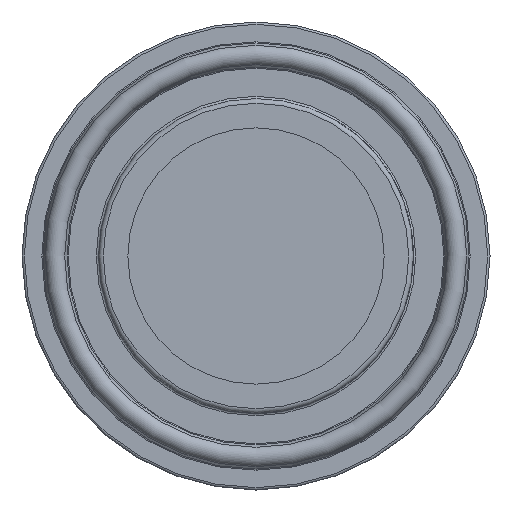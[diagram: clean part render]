
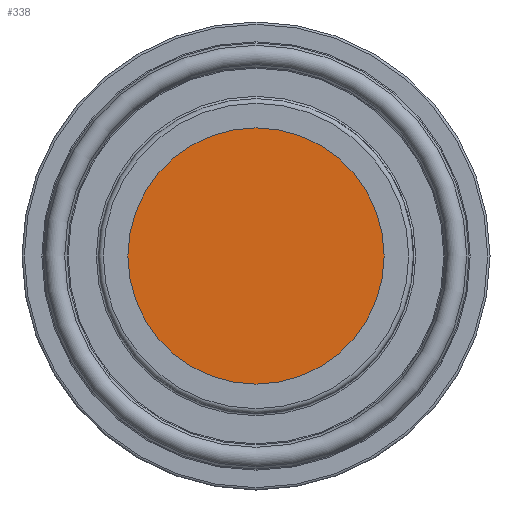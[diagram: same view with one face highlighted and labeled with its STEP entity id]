
A CAD part, left-side view. The second image highlights one B-rep face of the part: STEP entity #338.
In plain terms, the highlighted planar face has unit normal (-1, 0, 0).
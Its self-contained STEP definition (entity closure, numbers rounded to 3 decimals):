
#338 = ADVANCED_FACE( '', ( #845 ), #846, .F. );
#845 = FACE_OUTER_BOUND( '', #1782, .T. );
#846 = PLANE( '', #1783 );
#1782 = EDGE_LOOP( '', ( #3742 ) );
#1783 = AXIS2_PLACEMENT_3D( '', #3743, #3744, #3745 );
#3742 = ORIENTED_EDGE( '', *, *, #5345, .T. );
#3743 = CARTESIAN_POINT( '', ( 0., 0., 0. ) );
#3744 = DIRECTION( '', ( 1., 0., 0. ) );
#3745 = DIRECTION( '', ( 0., 0., -1. ) );
#5345 = EDGE_CURVE( '', #6255, #6255, #6256, .T. );
#6255 = VERTEX_POINT( '', #7862 );
#6256 = CIRCLE( '', #7863, 13.907 );
#7862 = CARTESIAN_POINT( '', ( 0., 0., 13.907 ) );
#7863 = AXIS2_PLACEMENT_3D( '', #9566, #9567, #9568 );
#9566 = CARTESIAN_POINT( '', ( 0., 0., 0. ) );
#9567 = DIRECTION( '', ( -1., 0., 0. ) );
#9568 = DIRECTION( '', ( 0., 0., 1. ) );
